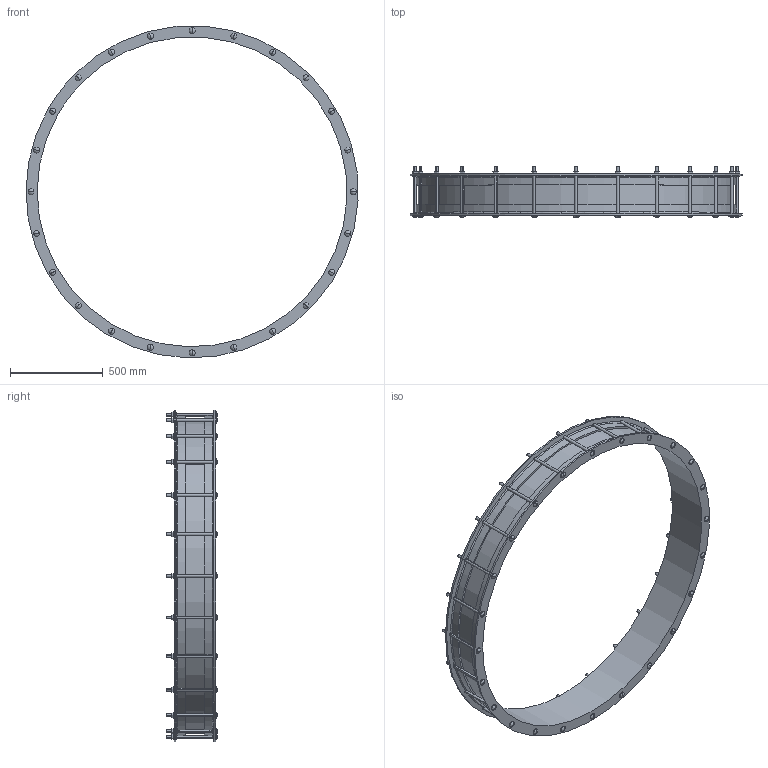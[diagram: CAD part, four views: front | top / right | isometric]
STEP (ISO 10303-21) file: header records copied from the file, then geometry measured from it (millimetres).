
FILE_DESCRIPTION((''),'2;1');
FILE_NAME('A2E_COUP_1668','2018-12-06T',('mfairey'),('Glynwed Pipe Systems'),'CREO PARAMETRIC BY PTC INC, 2016130','CREO PARAMETRIC BY PTC INC, 2016130','');
FILE_SCHEMA(('CONFIG_CONTROL_DESIGN'));
Length unit declared in the file: millimetre
Products named in the file (1): A2E_COUP_1668
Bounding box: 1790.85 x 275.68 x 1789.19 mm (x, y, z)
Volume: 31212836.9 mm3; surface area: 3729360.2 mm2
Topology: 1 solids, 1 shells, 568 faces, 1568 edges, 1004 vertices
Faces by surface type: plane 220, cylinder 200, cone 52, torus 48, sphere 48
Entity records: 22543 total; most frequent: CARTESIAN_POINT 8333, ORIENTED_EDGE 3040, DIRECTION 2860, EDGE_CURVE 1520, AXIS2_PLACEMENT_3D 1112, VERTEX_POINT 1004, EDGE_LOOP 668, VECTOR 636
